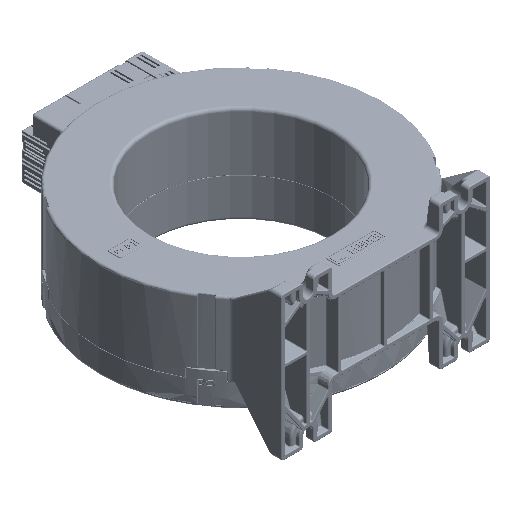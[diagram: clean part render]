
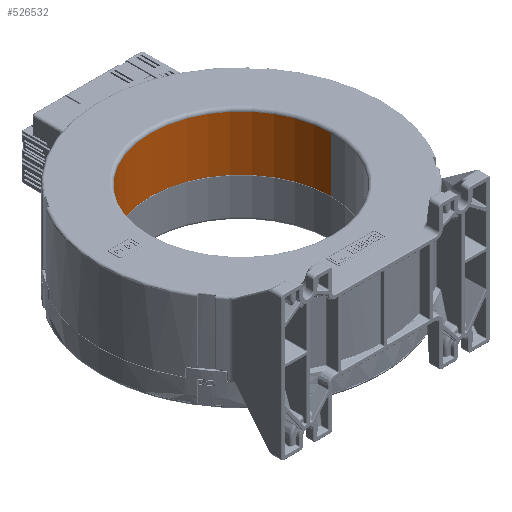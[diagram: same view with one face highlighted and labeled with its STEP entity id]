
A CAD part, isometric view. The second image highlights one B-rep face of the part: STEP entity #526532.
In plain terms, the highlighted cylindrical face has radius 60 mm (diameter 120 mm), a partial arc.
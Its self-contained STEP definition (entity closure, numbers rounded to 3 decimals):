
#15416 = CARTESIAN_POINT ( 'NONE',  ( 0., 0., -38.35 ) ) ;
#15650 = CARTESIAN_POINT ( 'NONE',  ( 0., 0., -2. ) ) ;
#45679 = ORIENTED_EDGE ( 'NONE', *, *, #372274, .T. ) ;
#53099 = DIRECTION ( 'NONE',  ( 0., 0., 1. ) ) ;
#61379 = DIRECTION ( 'NONE',  ( 1., 0., 0. ) ) ;
#61927 = DIRECTION ( 'NONE',  ( 0., 0., 1. ) ) ;
#73320 = VERTEX_POINT ( 'NONE', #386429 ) ;
#84302 = CARTESIAN_POINT ( 'NONE',  ( 60., 0., -38.35 ) ) ;
#90446 = VECTOR ( 'NONE', #53099, 1000. ) ;
#123844 = DIRECTION ( 'NONE',  ( 0., 0., 1. ) ) ;
#126291 = AXIS2_PLACEMENT_3D ( 'NONE', #15650, #454143, #61379 ) ;
#126653 = CARTESIAN_POINT ( 'NONE',  ( 0., 0., -62.1 ) ) ;
#137043 = CIRCLE ( 'NONE', #457327, 60. ) ;
#156505 = LINE ( 'NONE', #414609, #199021 ) ;
#159788 = EDGE_LOOP ( 'NONE', ( #503632, #542628, #45679, #359311 ) ) ;
#161251 = FACE_OUTER_BOUND ( 'NONE', #159788, .T. ) ;
#184925 = LINE ( 'NONE', #268189, #90446 ) ;
#190281 = DIRECTION ( 'NONE',  ( 0., 0., -1. ) ) ;
#199021 = VECTOR ( 'NONE', #61927, 1000. ) ;
#201010 = EDGE_CURVE ( 'NONE', #516972, #326771, #184925, .T. ) ;
#268189 = CARTESIAN_POINT ( 'NONE',  ( -60., 0., -62.1 ) ) ;
#291504 = AXIS2_PLACEMENT_3D ( 'NONE', #126653, #123844, #381876 ) ;
#299964 = CARTESIAN_POINT ( 'NONE',  ( -60., 0., -38.35 ) ) ;
#322157 = DIRECTION ( 'NONE',  ( 1., 0., 0. ) ) ;
#326771 = VERTEX_POINT ( 'NONE', #342026 ) ;
#342026 = CARTESIAN_POINT ( 'NONE',  ( -60., 0., -2. ) ) ;
#344592 = CYLINDRICAL_SURFACE ( 'NONE', #291504, 60. ) ;
#359311 = ORIENTED_EDGE ( 'NONE', *, *, #480522, .T. ) ;
#372274 = EDGE_CURVE ( 'NONE', #467302, #73320, #156505, .T. ) ;
#381876 = DIRECTION ( 'NONE',  ( 1., 0., 0. ) ) ;
#386429 = CARTESIAN_POINT ( 'NONE',  ( 60., 0., -2. ) ) ;
#414609 = CARTESIAN_POINT ( 'NONE',  ( 60., 0., -62.1 ) ) ;
#454143 = DIRECTION ( 'NONE',  ( 0., 0., 1. ) ) ;
#457327 = AXIS2_PLACEMENT_3D ( 'NONE', #15416, #190281, #322157 ) ;
#467302 = VERTEX_POINT ( 'NONE', #84302 ) ;
#480522 = EDGE_CURVE ( 'NONE', #73320, #326771, #529360, .T. ) ;
#503632 = ORIENTED_EDGE ( 'NONE', *, *, #201010, .F. ) ;
#516972 = VERTEX_POINT ( 'NONE', #299964 ) ;
#526532 = ADVANCED_FACE ( 'NONE', ( #161251 ), #344592, .F. ) ;
#529360 = CIRCLE ( 'NONE', #126291, 60. ) ;
#534461 = EDGE_CURVE ( 'NONE', #516972, #467302, #137043, .T. ) ;
#542628 = ORIENTED_EDGE ( 'NONE', *, *, #534461, .T. ) ;
